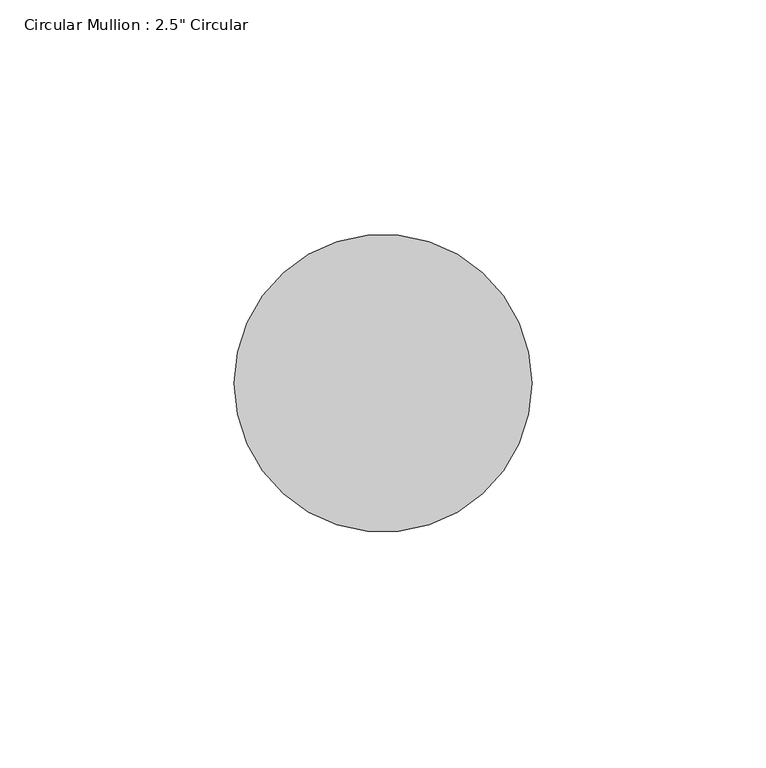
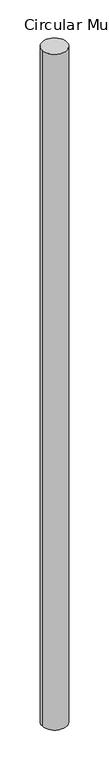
"""IFC4 building model written with IfcOpenShell, lengths in millimetres: member geometry."""

import ifcopenshell
import ifcopenshell.guid

model = None  # the IFC model being written
_history = None  # IfcOwnerHistory: only IFC2X3 demands one
_inside = {}  # id of a spatial element -> (the spatial element, [elements in it])
_under = {}  # id of a project, library or spatial element -> (it, [spatial elements below it])
_declared = {}  # id of a project -> (the project, [libraries it declares])
_typed = {}  # id of a type object -> (the type object, [elements of that type])
_made_of = {}  # id of a material, layer set ... -> (it, [elements and type objects made of it])


def new_model(schema):
    """Start an empty IFC model of exactly this schema.

    Asked for "IFC4X3", IfcOpenShell would pick the latest addendum, in which some entities
    have other attributes; the version numbers below select the first issue.
    IFC2X3 requires an IfcOwnerHistory on every rooted entity: one is made here for all.
    """
    global model, _history
    if schema == "IFC4X3":
        model = ifcopenshell.file(schema_version=(4, 3, 0, 0))
    else:
        model = ifcopenshell.file(schema=schema)
    _inside.clear()
    _under.clear()
    _declared.clear()
    _typed.clear()
    _made_of.clear()
    _history = None
    if model.schema == "IFC2X3":
        org = make("IfcOrganization", Name="unknown")
        user = make(
            "IfcPersonAndOrganization",
            ThePerson=make("IfcPerson", FamilyName="unknown"),
            TheOrganization=org,
        )
        app = make(
            "IfcApplication",
            ApplicationDeveloper=org,
            Version="unknown",
            ApplicationFullName="unknown",
            ApplicationIdentifier="unknown",
        )
        _history = make(
            "IfcOwnerHistory",
            OwningUser=user,
            OwningApplication=app,
            ChangeAction="ADDED",
            CreationDate=0,
        )
    return model


def make(cls, **values):
    """One entity of the class cls with the attributes given. An attribute that is None is left unset."""
    return model.create_entity(
        cls, **{name: value for name, value in values.items() if value is not None}
    )


def rooted(cls, **values):
    """An entity with a GlobalId (a new one), such as an element, a storey or a relation."""
    return make(cls, GlobalId=ifcopenshell.guid.new(), OwnerHistory=_history, **values)


def si_unit(unit_type, name, prefix=None):
    """IfcSIUnit, for example si_unit("LENGTHUNIT", "METRE", prefix="MILLI")."""
    return make("IfcSIUnit", UnitType=unit_type, Prefix=prefix, Name=name)


def assignment(units):
    """IfcUnitAssignment: the units of a project."""
    return None if units is None else make("IfcUnitAssignment", Units=units)


def point(xyz):
    """IfcCartesianPoint."""
    return None if xyz is None else make("IfcCartesianPoint", Coordinates=xyz)


def direction(xyz):
    """IfcDirection."""
    return None if xyz is None else make("IfcDirection", DirectionRatios=xyz)


def frame(location, z_axis=None, x_axis=None):
    """IfcAxis2Placement3D, a coordinate frame: its origin and axes. An axis left out is left unset."""
    return make(
        "IfcAxis2Placement3D",
        Location=point(location),
        Axis=direction(z_axis),
        RefDirection=direction(x_axis),
    )


def frame_2d(location, x_axis=None):
    """IfcAxis2Placement2D, a coordinate frame in the plane: its origin and x axis."""
    return make(
        "IfcAxis2Placement2D", Location=point(location), RefDirection=direction(x_axis)
    )


def origin():
    """The frame at (0, 0, 0) with its axes left unset."""
    return frame((0.0, 0.0, 0.0))


def place(relative_to, where):
    """IfcLocalPlacement: puts the frame where relative to a parent placement (None: the world)."""
    return make(
        "IfcLocalPlacement", PlacementRelTo=relative_to, RelativePlacement=where
    )


def context(
    kind, dimensions, precision=None, world=None, true_north=None, identifier=None
):
    """IfcGeometricRepresentationContext, for example the 3D "Model" context."""
    return make(
        "IfcGeometricRepresentationContext",
        ContextIdentifier=identifier,
        ContextType=kind,
        CoordinateSpaceDimension=dimensions,
        Precision=precision,
        WorldCoordinateSystem=world,
        TrueNorth=true_north,
    )


def project(units=None, contexts=None):
    """IfcProject with its units and contexts."""
    return rooted(
        "IfcProject",
        Name="project",
        RepresentationContexts=contexts,
        UnitsInContext=assignment(units),
    )


def spatial(cls, under=None, at=None, **own):
    """A site, building, storey or space (cls), placed at a placement, below another one or the project."""
    s = rooted(cls, ObjectPlacement=at, **own)
    if under is not None:
        _under.setdefault(under.id(), (under, []))[1].append(s)
    return s


def circle_curve(where, radius):
    """IfcCircle in the frame where."""
    return make("IfcCircle", Position=where, Radius=radius)


def trimmed(basis, trim1, trim2, sense, master):
    """IfcTrimmedCurve: the piece of a basis curve between two trims."""
    return make(
        "IfcTrimmedCurve",
        BasisCurve=basis,
        Trim1=trim1,
        Trim2=trim2,
        SenseAgreement=sense,
        MasterRepresentation=master,
    )


def segment(curve, same_sense, transition):
    """IfcCompositeCurveSegment."""
    return make(
        "IfcCompositeCurveSegment",
        Transition=transition,
        SameSense=same_sense,
        ParentCurve=curve,
    )


def composite_curve(segments, self_intersect=None):
    """IfcCompositeCurve: segments joined end to end."""
    return make("IfcCompositeCurve", Segments=segments, SelfIntersect=self_intersect)


def outline(outer, holes=None, kind="AREA"):
    """IfcArbitraryClosedProfileDef: a profile drawn as a closed curve; with holes, ...WithVoids."""
    if holes is None:
        return make("IfcArbitraryClosedProfileDef", ProfileType=kind, OuterCurve=outer)
    return make(
        "IfcArbitraryProfileDefWithVoids",
        ProfileType=kind,
        OuterCurve=outer,
        InnerCurves=holes,
    )


def extrude(swept, where, along, depth):
    """IfcExtrudedAreaSolid: the profile swept, set in the frame where, extruded along a direction by depth."""
    return make(
        "IfcExtrudedAreaSolid",
        SweptArea=swept,
        Position=where,
        ExtrudedDirection=direction(along),
        Depth=depth,
    )


def shape(context_of_items, identifier, shape_type, items):
    """IfcShapeRepresentation: the items that make up one representation, for example the "Body"."""
    return make(
        "IfcShapeRepresentation",
        ContextOfItems=context_of_items,
        RepresentationIdentifier=identifier,
        RepresentationType=shape_type,
        Items=items,
    )


def source(mapping_origin, context_of_items, identifier, shape_type, items):
    """IfcRepresentationMap: a shape defined once, which mapped items show again and again."""
    return make(
        "IfcRepresentationMap",
        MappingOrigin=mapping_origin,
        MappedRepresentation=shape(context_of_items, identifier, shape_type, items),
    )


def transform(
    local_origin,
    x_axis=None,
    y_axis=None,
    z_axis=None,
    scale=None,
    scale2=None,
    scale3=None,
    uniform=True,
):
    """IfcCartesianTransformationOperator3D, or its non-uniform kind. x_axis, y_axis, z_axis: its Axis1, 2, 3."""
    if uniform:
        return make(
            "IfcCartesianTransformationOperator3D",
            Axis1=direction(x_axis),
            Axis2=direction(y_axis),
            LocalOrigin=point(local_origin),
            Scale=scale,
            Axis3=direction(z_axis),
        )
    return make(
        "IfcCartesianTransformationOperator3DnonUniform",
        Axis1=direction(x_axis),
        Axis2=direction(y_axis),
        LocalOrigin=point(local_origin),
        Scale=scale,
        Axis3=direction(z_axis),
        Scale2=scale2,
        Scale3=scale3,
    )


def mapped(mapping_source, mapping_target):
    """IfcMappedItem: shows the shape of a source again, moved by a transform."""
    return make(
        "IfcMappedItem", MappingSource=mapping_source, MappingTarget=mapping_target
    )


def made_of(thing, what):
    """Note that an element or type object is made of a material, layer set ...; save() writes the relation."""
    if what is not None:
        _made_of.setdefault(what.id(), (what, []))[1].append(thing)
    return thing


def element(
    cls,
    number,
    at=None,
    inside=None,
    cuts=None,
    type_object=None,
    material=None,
    context=None,
    identifier="Body",
    shape_type=None,
    held_by="IfcProductDefinitionShape",
    body=None,
    shapes=None,
    **own,
):
    """One element of the class cls, such as IfcWall. Its Tag is "e" and its number.

    at: its placement. inside: the storey or other place that contains it. cuts: it is an
    opening in that element (IfcRelVoidsElement). A single representation is given by context,
    identifier, shape_type and body (its items); several are given by shapes. held_by: the class
    of the entity that holds the representations. save() writes the other relations.
    """
    e = rooted(cls, Tag="e%d" % number, ObjectPlacement=at, **own)
    if body is not None:
        shapes = [shape(context, identifier, shape_type, body)]
    if shapes is not None:
        e.Representation = make(held_by, Representations=shapes)
    if inside is not None:
        _inside.setdefault(inside.id(), (inside, []))[1].append(e)
    if cuts is not None:
        rooted(
            "IfcRelVoidsElement", RelatingBuildingElement=cuts, RelatedOpeningElement=e
        )
    if type_object is not None:
        _typed.setdefault(type_object.id(), (type_object, []))[1].append(e)
    return made_of(e, material)


def aggregate(whole, parts):
    """IfcRelAggregates: a whole, such as a stair, and the parts it consists of."""
    return rooted("IfcRelAggregates", RelatingObject=whole, RelatedObjects=parts)


def save(model, path):
    """Write the relations noted so far, then the file.

    IfcRelAggregates (storeys below a building ...), IfcRelContainedInSpatialStructure (elements
    in a storey), IfcRelDefinesByType, IfcRelAssociatesMaterial and IfcRelDeclares: one each for
    every whole, place, type object, material and project.
    """
    for whole, parts in _under.values():
        aggregate(whole, parts)
    for where, things in _inside.values():
        rooted(
            "IfcRelContainedInSpatialStructure",
            RelatedElements=things,
            RelatingStructure=where,
        )
    for kind, things in _typed.values():
        rooted("IfcRelDefinesByType", RelatedObjects=things, RelatingType=kind)
    for what, things in _made_of.values():
        rooted("IfcRelAssociatesMaterial", RelatedObjects=things, RelatingMaterial=what)
    for by, libraries in _declared.values():
        rooted("IfcRelDeclares", RelatingContext=by, RelatedDefinitions=libraries)
    model.write(path)


def member_153bd64a(model_context):
    return source(origin(), model_context, "Body", "SweptSolid", [
        extrude(outline(composite_curve([segment(trimmed(circle_curve(frame_2d((-31.75, 0.0)), 31.75), [point((0.0, 0.0))], [point((-63.5, 0.0))], False, "CARTESIAN"), True, "CONTINUOUS"), segment(trimmed(circle_curve(frame_2d((-31.75, 0.0)), 31.75), [point((-63.5, 0.0))], [point((0.0, 0.0))], False, "CARTESIAN"), True, "CONTINUOUS")], self_intersect=False)), frame((0.0, 0.0, -1833.7882157), z_axis=(0.0, 0.0, 1.0), x_axis=(1.0, 0.0, 0.0)), (0.0, 0.0, 1.0), 1833.7882157),
    ])


if __name__ == "__main__":
    model = new_model("IFC4")
    model_context = context("Model", 3, world=origin())
    ifc_project = project(units=[si_unit("LENGTHUNIT", "METRE", prefix="MILLI")], contexts=[model_context])
    site = spatial("IfcSite", under=ifc_project)
    building = spatial("IfcBuilding", under=site)
    placement = place(None, origin())
    member_shape = member_153bd64a(model_context)
    element("IfcMember", 1, ObjectType="Circular Mullion : 2.5\" Circular", at=placement, inside=building, context=model_context, shape_type="MappedRepresentation", body=[
        mapped(member_shape, transform((0.0, 0.0, 0.0), x_axis=(1.0, 0.0, 0.0), y_axis=(0.0, 1.0, 0.0), z_axis=(0.0, 0.0, 1.0))),
    ])
    save(model, "model.ifc")
